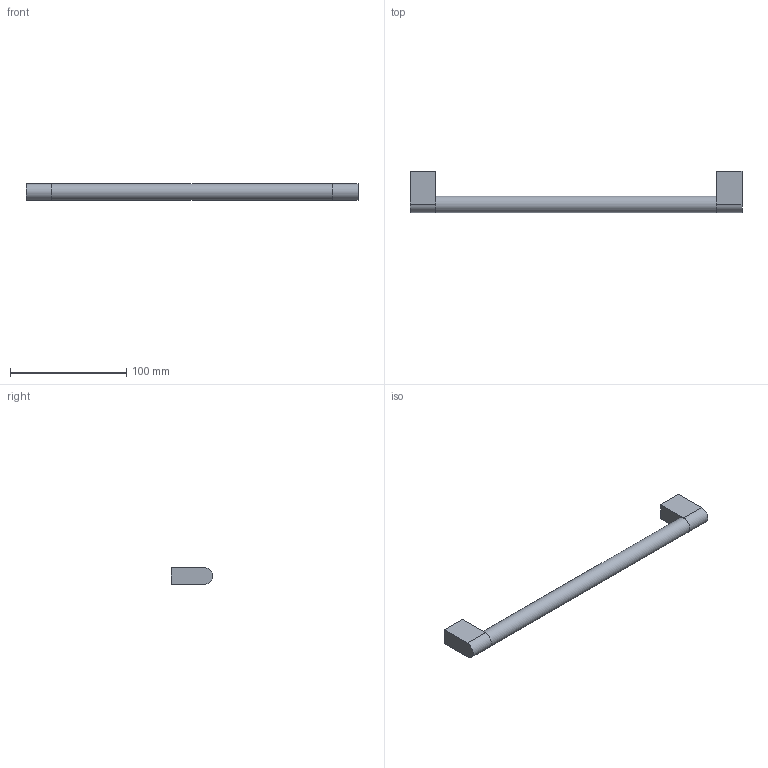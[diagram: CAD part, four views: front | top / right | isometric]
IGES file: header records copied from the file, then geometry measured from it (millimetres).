
Start section: Data from Parasolid IGES Translator 20.0.26, Copyright(c) 2006 Siemens P LM Software. All Rights Reserved.
Global section: file name: 9332351.igs; native system: By Siemens PLM Incorporated; preprocessor: XPlus GENERIC/IGES 20.0.26; author: Noname; organization: Noname; date: 20230829.122734; units: millimetre
Bounding box: 286 x 35.36 x 14.64 mm (x, y, z)
Surface area: 17165.6 mm2 (no closed solid volume)
Topology: 0 solids, 0 shells, 17 faces, 66 edges, 62 vertices
Faces by surface type: extrusion 12, revolution 5
